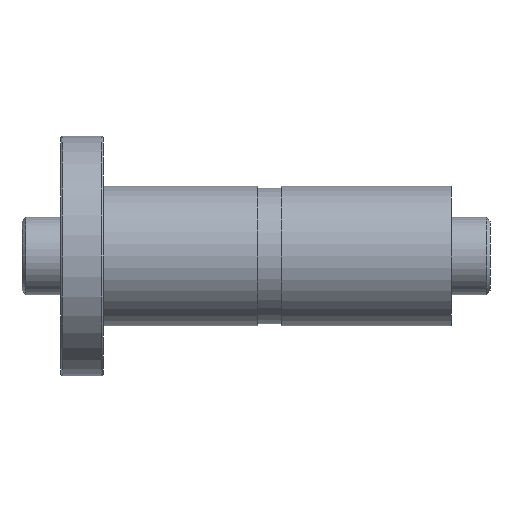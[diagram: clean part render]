
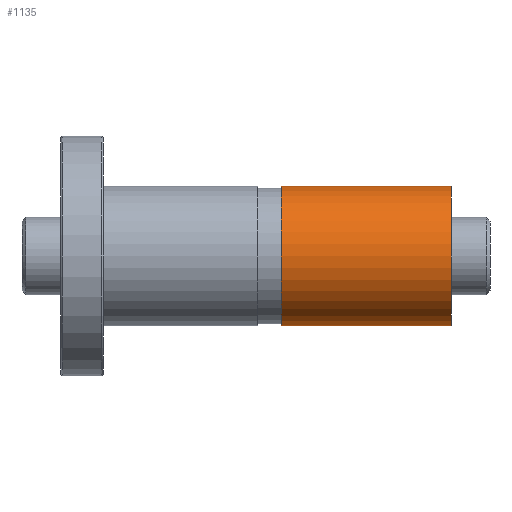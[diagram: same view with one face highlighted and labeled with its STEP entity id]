
A CAD part, front view. The second image highlights one B-rep face of the part: STEP entity #1135.
In plain terms, the highlighted cylindrical face has radius 18 mm (diameter 36 mm), a partial arc.
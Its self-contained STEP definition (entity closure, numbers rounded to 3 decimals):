
#133 = CARTESIAN_POINT ( 'NONE',  ( 57., 0., 18. ) ) ;
#271 = CARTESIAN_POINT ( 'NONE',  ( 101., 0., 0. ) ) ;
#287 = CARTESIAN_POINT ( 'NONE',  ( 101., 0., 18. ) ) ;
#415 = LINE ( 'NONE', #4171, #3643 ) ;
#433 = EDGE_CURVE ( 'NONE', #1328, #2840, #2133, .T. ) ;
#540 = AXIS2_PLACEMENT_3D ( 'NONE', #2898, #4706, #2523 ) ;
#956 = EDGE_CURVE ( 'NONE', #2840, #1268, #4285, .T. ) ;
#1135 = ADVANCED_FACE ( 'NONE', ( #4074 ), #4772, .T. ) ;
#1218 = CARTESIAN_POINT ( 'NONE',  ( 101., 0., 18. ) ) ;
#1222 = DIRECTION ( 'NONE',  ( 1., 0., 0. ) ) ;
#1268 = VERTEX_POINT ( 'NONE', #3964 ) ;
#1328 = VERTEX_POINT ( 'NONE', #1218 ) ;
#1418 = AXIS2_PLACEMENT_3D ( 'NONE', #271, #3245, #3987 ) ;
#1758 = CARTESIAN_POINT ( 'NONE',  ( 101., 0., -18. ) ) ;
#1788 = ORIENTED_EDGE ( 'NONE', *, *, #956, .T. ) ;
#2133 = LINE ( 'NONE', #287, #4006 ) ;
#2245 = DIRECTION ( 'NONE',  ( 0., 0., -1. ) ) ;
#2355 = EDGE_CURVE ( 'NONE', #1328, #3863, #2733, .T. ) ;
#2480 = DIRECTION ( 'NONE',  ( -1., 0., 0. ) ) ;
#2523 = DIRECTION ( 'NONE',  ( 0., 0., 1. ) ) ;
#2581 = AXIS2_PLACEMENT_3D ( 'NONE', #3045, #1222, #2245 ) ;
#2733 = CIRCLE ( 'NONE', #1418, 18. ) ;
#2840 = VERTEX_POINT ( 'NONE', #133 ) ;
#2898 = CARTESIAN_POINT ( 'NONE',  ( 101., 0., 0. ) ) ;
#3045 = CARTESIAN_POINT ( 'NONE',  ( 57., 0., 0. ) ) ;
#3058 = EDGE_LOOP ( 'NONE', ( #3920, #3860, #4674, #1788 ) ) ;
#3245 = DIRECTION ( 'NONE',  ( 1., 0., 0. ) ) ;
#3643 = VECTOR ( 'NONE', #4521, 1000. ) ;
#3860 = ORIENTED_EDGE ( 'NONE', *, *, #2355, .F. ) ;
#3863 = VERTEX_POINT ( 'NONE', #1758 ) ;
#3920 = ORIENTED_EDGE ( 'NONE', *, *, #4422, .F. ) ;
#3964 = CARTESIAN_POINT ( 'NONE',  ( 57., 0., -18. ) ) ;
#3987 = DIRECTION ( 'NONE',  ( 0., 0., -1. ) ) ;
#4006 = VECTOR ( 'NONE', #2480, 1000. ) ;
#4074 = FACE_OUTER_BOUND ( 'NONE', #3058, .T. ) ;
#4171 = CARTESIAN_POINT ( 'NONE',  ( 101., 0., -18. ) ) ;
#4285 = CIRCLE ( 'NONE', #2581, 18. ) ;
#4422 = EDGE_CURVE ( 'NONE', #3863, #1268, #415, .T. ) ;
#4521 = DIRECTION ( 'NONE',  ( -1., 0., 0. ) ) ;
#4674 = ORIENTED_EDGE ( 'NONE', *, *, #433, .T. ) ;
#4706 = DIRECTION ( 'NONE',  ( -1., 0., 0. ) ) ;
#4772 = CYLINDRICAL_SURFACE ( 'NONE', #540, 18. ) ;
